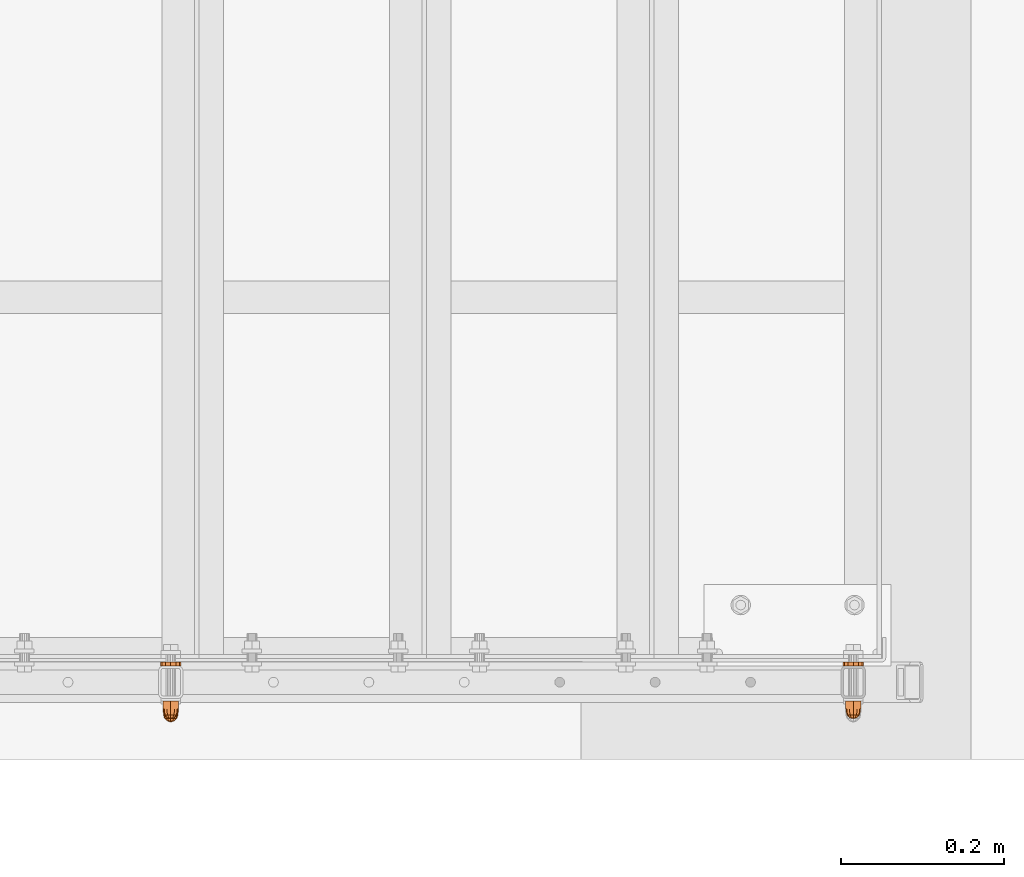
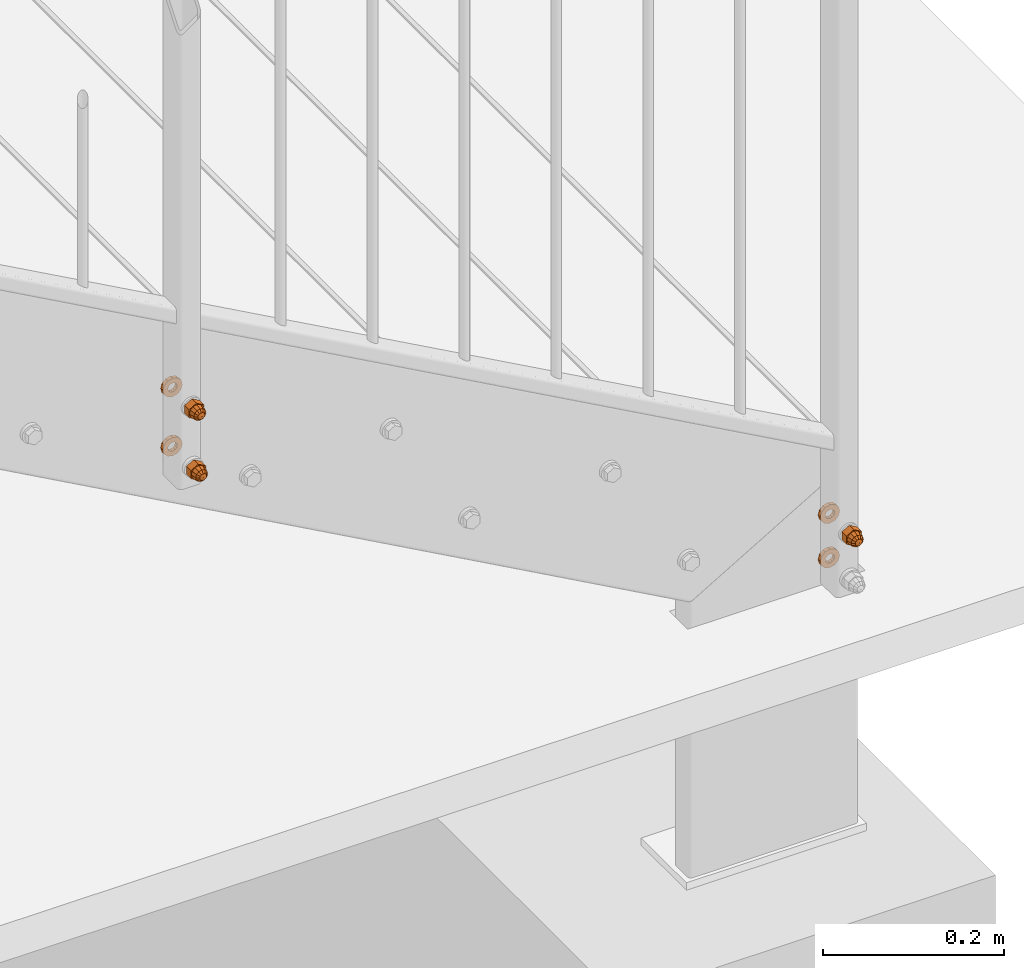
# One storey, part 114 of 116: 7 proxies.
"""IFC2X3 building model written with IfcOpenShell, lengths in millimetres."""

from ifc_helpers import new_model, entity, si_unit, converted_unit, origin_with_axes, place, context, project, spatial, faceted_brep, material, element, save


model = new_model("IFC2X3")

# Units and contexts
model_context = context("Model", 3, precision=1e-09, world=origin_with_axes())
ifc_project = project(units=[si_unit("LENGTHUNIT", "METRE", prefix="MILLI"), si_unit("AREAUNIT", "SQUARE_METRE"), si_unit("VOLUMEUNIT", "CUBIC_METRE"), converted_unit("PLANEANGLEUNIT", "DEGREE", entity("IfcPlaneAngleMeasure", 0.01745329), si_unit("PLANEANGLEUNIT", "RADIAN"), dimensions=[0, 0, 0, 0, 0, 0, 0])], contexts=[model_context])

# Site, building, storey
site_placement = place(None, origin_with_axes())
site = spatial("IfcSite", under=ifc_project, at=site_placement, Name="Site", CompositionType="ELEMENT")
building_placement = place(site_placement, origin_with_axes())
building = spatial("IfcBuilding", under=site, at=building_placement, Name="Struktur 1", CompositionType="ELEMENT")
storey_placement = place(building_placement, origin_with_axes())
storey = spatial("IfcBuildingStorey", under=building, at=storey_placement, Name="Default Storey", CompositionType="ELEMENT", Elevation=0.0)

# Proxies
ifc_material = material(Name="Kein")
proxy_1_placement = place(None, origin_with_axes())
element("IfcBuildingElementProxy", 1, at=proxy_1_placement, inside=storey, material=ifc_material, ObjectType="-", context=model_context, shape_type="Brep", body=[
    faceted_brep([(60566.223817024, 9067.359883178, -1314.25), (60570.799134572, 9067.359883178, -1318.825317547), (60577.049134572, 9067.359883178, -1320.5), (60583.299134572, 9067.359883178, -1318.825317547), (60587.874452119, 9067.359883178, -1314.25), (60589.549134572, 9067.359883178, -1308.0), (60587.874452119, 9067.359883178, -1301.75), (60583.299134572, 9067.359883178, -1297.174682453), (60577.049134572, 9067.359883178, -1295.5), (60570.799134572, 9067.359883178, -1297.174682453), (60566.223817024, 9067.359883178, -1301.75), (60564.549134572, 9067.359883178, -1308.0), (60577.049134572, 9067.359883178, -1314.0), (60574.049134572, 9067.359883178, -1313.196152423), (60571.852982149, 9067.359883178, -1311.0), (60571.049134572, 9067.359883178, -1308.0), (60571.852982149, 9067.359883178, -1305.0), (60574.049134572, 9067.359883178, -1302.803847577), (60577.049134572, 9067.359883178, -1302.0), (60580.049134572, 9067.359883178, -1302.803847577), (60582.245286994, 9067.359883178, -1305.0), (60583.049134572, 9067.359883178, -1308.0), (60582.245286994, 9067.359883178, -1311.0), (60580.049134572, 9067.359883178, -1313.196152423), (60566.223817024, 9072.359883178, -1314.25), (60570.799134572, 9072.359883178, -1318.825317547), (60564.549134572, 9072.359883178, -1308.0), (60566.223817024, 9072.359883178, -1301.75), (60570.799134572, 9072.359883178, -1297.174682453), (60577.049134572, 9072.359883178, -1295.5), (60583.299134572, 9072.359883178, -1297.174682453), (60587.874452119, 9072.359883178, -1301.75), (60589.549134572, 9072.359883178, -1308.0), (60587.874452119, 9072.359883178, -1314.25), (60583.299134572, 9072.359883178, -1318.825317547), (60577.049134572, 9072.359883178, -1320.5), (60571.852982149, 9072.359883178, -1305.0), (60571.049134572, 9072.359883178, -1308.0), (60571.852982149, 9072.359883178, -1311.0), (60574.049134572, 9072.359883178, -1313.196152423), (60577.049134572, 9072.359883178, -1314.0), (60580.049134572, 9072.359883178, -1313.196152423), (60582.245286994, 9072.359883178, -1311.0), (60583.049134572, 9072.359883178, -1308.0), (60582.245286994, 9072.359883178, -1305.0), (60580.049134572, 9072.359883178, -1302.803847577), (60577.049134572, 9072.359883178, -1302.0), (60574.049134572, 9072.359883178, -1302.803847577)], [[[0, 1, 2, 3, 4, 5, 6, 7, 8, 9, 10, 11], [12, 13, 14, 15, 16, 17, 18, 19, 20, 21, 22, 23]], [[0, 24, 25, 1]], [[24, 26, 27, 28, 29, 30, 31, 32, 33, 34, 35, 25], [36, 37, 38, 39, 40, 41, 42, 43, 44, 45, 46, 47]], [[38, 14, 13, 39]], [[24, 0, 11, 26]], [[14, 38, 37, 15]], [[39, 13, 12, 40]], [[1, 25, 35, 2]], [[26, 11, 10, 27]], [[15, 37, 36, 16]], [[40, 12, 23, 41]], [[2, 35, 34, 3]], [[27, 10, 9, 28]], [[16, 36, 47, 17]], [[22, 42, 41, 23]], [[3, 34, 33, 4]], [[42, 22, 21, 43]], [[28, 9, 8, 29]], [[17, 47, 46, 18]], [[20, 44, 43, 21]], [[4, 33, 32, 5]], [[45, 19, 18, 46]], [[44, 20, 19, 45]], [[29, 8, 7, 30]], [[5, 32, 31, 6]], [[30, 7, 6, 31]]]),
])
proxy_2_placement = place(None, origin_with_axes())
element("IfcBuildingElementProxy", 2, at=proxy_2_placement, inside=storey, material=ifc_material, ObjectType="-", context=model_context, shape_type="Brep", body=[
    faceted_brep([(60571.049134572, 9024.359883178, -1308.0), (60571.049134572, 9014.359883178, -1308.0), (60571.852982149, 9014.359883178, -1311.0), (60571.852982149, 9024.359883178, -1311.0), (60574.049134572, 9014.359883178, -1313.196152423), (60574.049134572, 9024.359883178, -1313.196152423), (60571.852982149, 9024.359883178, -1305.0), (60571.852982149, 9014.359883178, -1305.0), (60567.569265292, 9024.359883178, -1302.526794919), (60577.049134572, 9024.359883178, -1297.053589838), (60586.529003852, 9024.359883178, -1302.526794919), (60586.529003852, 9024.359883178, -1313.473205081), (60577.049134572, 9024.359883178, -1318.946410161), (60567.569265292, 9024.359883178, -1313.473205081), (60574.049134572, 9024.359883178, -1302.803847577), (60577.049134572, 9024.359883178, -1314.0), (60580.049134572, 9024.359883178, -1313.196152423), (60582.245286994, 9024.359883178, -1311.0), (60583.049134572, 9024.359883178, -1308.0), (60582.245286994, 9024.359883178, -1305.0), (60580.049134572, 9024.359883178, -1302.803847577), (60577.049134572, 9024.359883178, -1302.0), (60577.049134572, 9014.359883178, -1297.053589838), (60567.569265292, 9014.359883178, -1302.526794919), (60567.569265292, 9014.359883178, -1313.473205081), (60577.049134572, 9014.359883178, -1318.946410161), (60586.529003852, 9014.359883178, -1313.473205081), (60586.529003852, 9014.359883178, -1302.526794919), (60574.049134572, 9014.359883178, -1302.803847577), (60577.049134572, 9014.359883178, -1302.0), (60580.049134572, 9014.359883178, -1302.803847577), (60582.245286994, 9014.359883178, -1305.0), (60583.049134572, 9014.359883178, -1308.0), (60582.245286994, 9014.359883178, -1311.0), (60580.049134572, 9014.359883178, -1313.196152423), (60577.049134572, 9014.359883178, -1314.0)], [[[0, 1, 2, 3]], [[3, 2, 4, 5]], [[1, 0, 6, 7]], [[8, 9, 10, 11, 12, 13], [14, 6, 0, 3, 5, 15, 16, 17, 18, 19, 20, 21]], [[22, 23, 24, 25, 26, 27], [1, 7, 28, 29, 30, 31, 32, 33, 34, 35, 4, 2]], [[7, 6, 14, 28]], [[24, 23, 8, 13]], [[5, 4, 35, 15]], [[13, 12, 25, 24]], [[28, 14, 21, 29]], [[23, 22, 9, 8]], [[15, 35, 34, 16]], [[12, 11, 26, 25]], [[29, 21, 20, 30]], [[22, 27, 10, 9]], [[16, 34, 33, 17]], [[27, 26, 11, 10]], [[30, 20, 19, 31]], [[17, 33, 32, 18]], [[31, 19, 18, 32]]]),
    faceted_brep([(60577.049134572, 9014.359883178, -1299.0), (60577.049134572, 9011.359883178, -1299.0), (60581.549134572, 9011.359883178, -1300.205771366), (60581.549134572, 9014.359883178, -1300.205771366), (60572.549134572, 9014.359883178, -1300.205771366), (60572.549134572, 9011.359883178, -1300.205771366), (60569.254905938, 9011.359883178, -1312.5), (60572.549134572, 9011.359883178, -1315.794228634), (60577.049134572, 9011.359883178, -1317.0), (60581.549134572, 9011.359883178, -1315.794228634), (60584.843363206, 9011.359883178, -1312.5), (60586.049134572, 9011.359883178, -1308.0), (60584.843363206, 9011.359883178, -1303.5), (60569.254905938, 9011.359883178, -1303.5), (60568.049134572, 9011.359883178, -1308.0), (60584.843363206, 9014.359883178, -1312.5), (60581.549134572, 9014.359883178, -1315.794228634), (60577.049134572, 9014.359883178, -1317.0), (60572.549134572, 9014.359883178, -1315.794228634), (60569.254905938, 9014.359883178, -1312.5), (60568.049134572, 9014.359883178, -1308.0), (60569.254905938, 9014.359883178, -1303.5), (60584.843363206, 9014.359883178, -1303.5), (60586.049134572, 9014.359883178, -1308.0)], [[[0, 1, 2, 3]], [[1, 0, 4, 5]], [[6, 7, 8, 9, 10, 11, 12, 2, 1, 5, 13, 14]], [[15, 16, 17, 18, 19, 20, 21, 4, 0, 3, 22, 23]], [[3, 2, 12, 22]], [[5, 4, 21, 13]], [[22, 12, 11, 23]], [[13, 21, 20, 14]], [[7, 18, 17, 8]], [[19, 6, 14, 20]], [[18, 7, 6, 19]], [[23, 11, 10, 15]], [[8, 17, 16, 9]], [[15, 10, 9, 16]]]),
    faceted_brep([(60569.254905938, 9011.359883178, -1303.5), (60570.299134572, 9006.859883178, -1304.102885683), (60573.152020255, 9006.859883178, -1301.25), (60572.549134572, 9011.359883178, -1300.205771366), (60584.843363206, 9011.359883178, -1312.5), (60581.549134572, 9011.359883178, -1315.794228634), (60577.049134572, 9011.359883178, -1317.0), (60572.549134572, 9011.359883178, -1315.794228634), (60569.254905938, 9011.359883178, -1312.5), (60568.049134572, 9011.359883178, -1308.0), (60577.049134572, 9011.359883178, -1299.0), (60581.549134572, 9011.359883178, -1300.205771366), (60584.843363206, 9011.359883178, -1303.5), (60586.049134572, 9011.359883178, -1308.0), (60577.049134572, 9006.859883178, -1300.205771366), (60569.254905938, 9006.859883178, -1308.0), (60572.549134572, 9003.565654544, -1308.0), (60573.152020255, 9003.565654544, -1305.75), (60580.946248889, 9006.859883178, -1301.25), (60574.799134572, 9003.565654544, -1304.102885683), (60570.299134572, 9006.859883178, -1311.897114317), (60573.152020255, 9003.565654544, -1310.25), (60577.049134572, 9003.565654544, -1303.5), (60577.049134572, 9002.359883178, -1308.0), (60573.152020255, 9006.859883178, -1314.75), (60574.799134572, 9003.565654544, -1311.897114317), (60577.049134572, 9006.859883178, -1315.794228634), (60583.799134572, 9006.859883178, -1304.102885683), (60579.299134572, 9003.565654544, -1304.102885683), (60577.049134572, 9003.565654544, -1312.5), (60580.946248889, 9006.859883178, -1314.75), (60579.299134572, 9003.565654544, -1311.897114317), (60584.843363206, 9006.859883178, -1308.0), (60580.946248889, 9003.565654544, -1305.75), (60583.799134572, 9006.859883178, -1311.897114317), (60580.946248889, 9003.565654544, -1310.25), (60581.549134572, 9003.565654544, -1308.0)], [[[0, 1, 2, 3]], [[4, 5, 6, 7, 8, 9, 0, 3, 10, 11, 12, 13]], [[3, 2, 14, 10]], [[15, 16, 17, 1]], [[1, 0, 9, 15]], [[10, 14, 18, 11]], [[1, 17, 19, 2]], [[16, 15, 20, 21]], [[2, 19, 22, 14]], [[23, 17, 16]], [[24, 25, 21, 20]], [[23, 16, 21]], [[24, 7, 6, 26]], [[20, 8, 7, 24]], [[15, 9, 8, 20]], [[11, 18, 27, 12]], [[14, 22, 28, 18]], [[23, 19, 17]], [[26, 29, 25, 24]], [[23, 21, 25]], [[23, 22, 19]], [[26, 6, 5, 30]], [[29, 26, 30, 31]], [[23, 25, 29]], [[12, 27, 32, 13]], [[18, 28, 33, 27]], [[23, 28, 22]], [[23, 29, 31]], [[23, 33, 28]], [[30, 5, 4, 34]], [[31, 30, 34, 35]], [[23, 31, 35]], [[13, 32, 34, 4]], [[27, 33, 36, 32]], [[23, 36, 33]], [[23, 35, 36]], [[35, 34, 32, 36]]]),
])
proxy_3_placement = place(None, origin_with_axes())
element("IfcBuildingElementProxy", 3, at=proxy_3_placement, inside=storey, material=ifc_material, ObjectType="-", context=model_context, shape_type="Brep", body=[
    faceted_brep([(60566.223817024, 9067.359883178, -1374.25), (60570.799134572, 9067.359883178, -1378.825317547), (60577.049134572, 9067.359883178, -1380.5), (60583.299134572, 9067.359883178, -1378.825317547), (60587.874452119, 9067.359883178, -1374.25), (60589.549134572, 9067.359883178, -1368.0), (60587.874452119, 9067.359883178, -1361.75), (60583.299134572, 9067.359883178, -1357.174682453), (60577.049134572, 9067.359883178, -1355.5), (60570.799134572, 9067.359883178, -1357.174682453), (60566.223817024, 9067.359883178, -1361.75), (60564.549134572, 9067.359883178, -1368.0), (60577.049134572, 9067.359883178, -1374.0), (60574.049134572, 9067.359883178, -1373.196152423), (60571.852982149, 9067.359883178, -1371.0), (60571.049134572, 9067.359883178, -1368.0), (60571.852982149, 9067.359883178, -1365.0), (60574.049134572, 9067.359883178, -1362.803847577), (60577.049134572, 9067.359883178, -1362.0), (60580.049134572, 9067.359883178, -1362.803847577), (60582.245286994, 9067.359883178, -1365.0), (60583.049134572, 9067.359883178, -1368.0), (60582.245286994, 9067.359883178, -1371.0), (60580.049134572, 9067.359883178, -1373.196152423), (60566.223817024, 9072.359883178, -1374.25), (60570.799134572, 9072.359883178, -1378.825317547), (60564.549134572, 9072.359883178, -1368.0), (60566.223817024, 9072.359883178, -1361.75), (60570.799134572, 9072.359883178, -1357.174682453), (60577.049134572, 9072.359883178, -1355.5), (60583.299134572, 9072.359883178, -1357.174682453), (60587.874452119, 9072.359883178, -1361.75), (60589.549134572, 9072.359883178, -1368.0), (60587.874452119, 9072.359883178, -1374.25), (60583.299134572, 9072.359883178, -1378.825317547), (60577.049134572, 9072.359883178, -1380.5), (60571.852982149, 9072.359883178, -1365.0), (60571.049134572, 9072.359883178, -1368.0), (60571.852982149, 9072.359883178, -1371.0), (60574.049134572, 9072.359883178, -1373.196152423), (60577.049134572, 9072.359883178, -1374.0), (60580.049134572, 9072.359883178, -1373.196152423), (60582.245286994, 9072.359883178, -1371.0), (60583.049134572, 9072.359883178, -1368.0), (60582.245286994, 9072.359883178, -1365.0), (60580.049134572, 9072.359883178, -1362.803847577), (60577.049134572, 9072.359883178, -1362.0), (60574.049134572, 9072.359883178, -1362.803847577)], [[[0, 1, 2, 3, 4, 5, 6, 7, 8, 9, 10, 11], [12, 13, 14, 15, 16, 17, 18, 19, 20, 21, 22, 23]], [[0, 24, 25, 1]], [[24, 26, 27, 28, 29, 30, 31, 32, 33, 34, 35, 25], [36, 37, 38, 39, 40, 41, 42, 43, 44, 45, 46, 47]], [[38, 14, 13, 39]], [[24, 0, 11, 26]], [[14, 38, 37, 15]], [[39, 13, 12, 40]], [[1, 25, 35, 2]], [[26, 11, 10, 27]], [[15, 37, 36, 16]], [[40, 12, 23, 41]], [[2, 35, 34, 3]], [[27, 10, 9, 28]], [[16, 36, 47, 17]], [[22, 42, 41, 23]], [[3, 34, 33, 4]], [[42, 22, 21, 43]], [[28, 9, 8, 29]], [[17, 47, 46, 18]], [[20, 44, 43, 21]], [[4, 33, 32, 5]], [[45, 19, 18, 46]], [[44, 20, 19, 45]], [[29, 8, 7, 30]], [[5, 32, 31, 6]], [[30, 7, 6, 31]]]),
])
proxy_4_placement = place(None, origin_with_axes())
element("IfcBuildingElementProxy", 4, at=proxy_4_placement, inside=storey, material=ifc_material, ObjectType="-", context=model_context, shape_type="Brep", body=[
    faceted_brep([(59731.049134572, 9020.359883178, -923.0), (59731.049134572, 9010.359883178, -923.0), (59731.852982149, 9010.359883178, -926.0), (59731.852982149, 9020.359883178, -926.0), (59734.049134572, 9010.359883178, -928.196152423), (59734.049134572, 9020.359883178, -928.196152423), (59731.852982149, 9020.359883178, -920.0), (59731.852982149, 9010.359883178, -920.0), (59727.569265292, 9020.359883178, -917.526794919), (59737.049134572, 9020.359883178, -912.053589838), (59746.529003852, 9020.359883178, -917.526794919), (59746.529003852, 9020.359883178, -928.473205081), (59737.049134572, 9020.359883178, -933.946410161), (59727.569265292, 9020.359883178, -928.473205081), (59734.049134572, 9020.359883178, -917.803847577), (59737.049134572, 9020.359883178, -929.0), (59740.049134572, 9020.359883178, -928.196152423), (59742.245286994, 9020.359883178, -926.0), (59743.049134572, 9020.359883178, -923.0), (59742.245286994, 9020.359883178, -920.0), (59740.049134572, 9020.359883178, -917.803847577), (59737.049134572, 9020.359883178, -917.0), (59737.049134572, 9010.359883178, -912.053589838), (59727.569265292, 9010.359883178, -917.526794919), (59727.569265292, 9010.359883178, -928.473205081), (59737.049134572, 9010.359883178, -933.946410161), (59746.529003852, 9010.359883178, -928.473205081), (59746.529003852, 9010.359883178, -917.526794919), (59734.049134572, 9010.359883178, -917.803847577), (59737.049134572, 9010.359883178, -917.0), (59740.049134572, 9010.359883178, -917.803847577), (59742.245286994, 9010.359883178, -920.0), (59743.049134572, 9010.359883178, -923.0), (59742.245286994, 9010.359883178, -926.0), (59740.049134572, 9010.359883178, -928.196152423), (59737.049134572, 9010.359883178, -929.0)], [[[0, 1, 2, 3]], [[3, 2, 4, 5]], [[1, 0, 6, 7]], [[8, 9, 10, 11, 12, 13], [14, 6, 0, 3, 5, 15, 16, 17, 18, 19, 20, 21]], [[22, 23, 24, 25, 26, 27], [1, 7, 28, 29, 30, 31, 32, 33, 34, 35, 4, 2]], [[7, 6, 14, 28]], [[24, 23, 8, 13]], [[5, 4, 35, 15]], [[13, 12, 25, 24]], [[28, 14, 21, 29]], [[23, 22, 9, 8]], [[15, 35, 34, 16]], [[12, 11, 26, 25]], [[29, 21, 20, 30]], [[22, 27, 10, 9]], [[16, 34, 33, 17]], [[27, 26, 11, 10]], [[30, 20, 19, 31]], [[17, 33, 32, 18]], [[31, 19, 18, 32]]]),
    faceted_brep([(59737.049134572, 9010.359883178, -914.0), (59737.049134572, 9007.359883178, -914.0), (59741.549134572, 9007.359883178, -915.205771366), (59741.549134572, 9010.359883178, -915.205771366), (59732.549134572, 9010.359883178, -915.205771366), (59732.549134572, 9007.359883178, -915.205771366), (59729.254905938, 9007.359883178, -927.5), (59732.549134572, 9007.359883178, -930.794228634), (59737.049134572, 9007.359883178, -932.0), (59741.549134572, 9007.359883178, -930.794228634), (59744.843363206, 9007.359883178, -927.5), (59746.049134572, 9007.359883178, -923.0), (59744.843363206, 9007.359883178, -918.5), (59729.254905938, 9007.359883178, -918.5), (59728.049134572, 9007.359883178, -923.0), (59744.843363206, 9010.359883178, -927.5), (59741.549134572, 9010.359883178, -930.794228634), (59737.049134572, 9010.359883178, -932.0), (59732.549134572, 9010.359883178, -930.794228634), (59729.254905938, 9010.359883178, -927.5), (59728.049134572, 9010.359883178, -923.0), (59729.254905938, 9010.359883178, -918.5), (59744.843363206, 9010.359883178, -918.5), (59746.049134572, 9010.359883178, -923.0)], [[[0, 1, 2, 3]], [[1, 0, 4, 5]], [[6, 7, 8, 9, 10, 11, 12, 2, 1, 5, 13, 14]], [[15, 16, 17, 18, 19, 20, 21, 4, 0, 3, 22, 23]], [[3, 2, 12, 22]], [[5, 4, 21, 13]], [[22, 12, 11, 23]], [[13, 21, 20, 14]], [[7, 18, 17, 8]], [[19, 6, 14, 20]], [[18, 7, 6, 19]], [[23, 11, 10, 15]], [[8, 17, 16, 9]], [[15, 10, 9, 16]]]),
    faceted_brep([(59729.254905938, 9007.359883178, -918.5), (59730.299134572, 9002.859883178, -919.102885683), (59733.152020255, 9002.859883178, -916.25), (59732.549134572, 9007.359883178, -915.205771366), (59744.843363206, 9007.359883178, -927.5), (59741.549134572, 9007.359883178, -930.794228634), (59737.049134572, 9007.359883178, -932.0), (59732.549134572, 9007.359883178, -930.794228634), (59729.254905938, 9007.359883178, -927.5), (59728.049134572, 9007.359883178, -923.0), (59737.049134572, 9007.359883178, -914.0), (59741.549134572, 9007.359883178, -915.205771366), (59744.843363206, 9007.359883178, -918.5), (59746.049134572, 9007.359883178, -923.0), (59737.049134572, 9002.859883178, -915.205771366), (59729.254905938, 9002.859883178, -923.0), (59732.549134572, 8999.565654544, -923.0), (59733.152020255, 8999.565654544, -920.75), (59740.946248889, 9002.859883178, -916.25), (59734.799134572, 8999.565654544, -919.102885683), (59730.299134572, 9002.859883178, -926.897114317), (59733.152020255, 8999.565654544, -925.25), (59737.049134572, 8999.565654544, -918.5), (59737.049134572, 8998.359883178, -923.0), (59733.152020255, 9002.859883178, -929.75), (59734.799134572, 8999.565654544, -926.897114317), (59737.049134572, 9002.859883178, -930.794228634), (59743.799134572, 9002.859883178, -919.102885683), (59739.299134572, 8999.565654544, -919.102885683), (59737.049134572, 8999.565654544, -927.5), (59740.946248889, 9002.859883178, -929.75), (59739.299134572, 8999.565654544, -926.897114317), (59744.843363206, 9002.859883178, -923.0), (59740.946248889, 8999.565654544, -920.75), (59743.799134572, 9002.859883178, -926.897114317), (59740.946248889, 8999.565654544, -925.25), (59741.549134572, 8999.565654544, -923.0)], [[[0, 1, 2, 3]], [[4, 5, 6, 7, 8, 9, 0, 3, 10, 11, 12, 13]], [[3, 2, 14, 10]], [[15, 16, 17, 1]], [[1, 0, 9, 15]], [[10, 14, 18, 11]], [[1, 17, 19, 2]], [[16, 15, 20, 21]], [[2, 19, 22, 14]], [[23, 17, 16]], [[24, 25, 21, 20]], [[23, 16, 21]], [[24, 7, 6, 26]], [[20, 8, 7, 24]], [[15, 9, 8, 20]], [[11, 18, 27, 12]], [[14, 22, 28, 18]], [[23, 19, 17]], [[26, 29, 25, 24]], [[23, 21, 25]], [[23, 22, 19]], [[26, 6, 5, 30]], [[29, 26, 30, 31]], [[23, 25, 29]], [[12, 27, 32, 13]], [[18, 28, 33, 27]], [[23, 28, 22]], [[23, 29, 31]], [[23, 33, 28]], [[30, 5, 4, 34]], [[31, 30, 34, 35]], [[23, 31, 35]], [[13, 32, 34, 4]], [[27, 33, 36, 32]], [[23, 36, 33]], [[23, 35, 36]], [[35, 34, 32, 36]]]),
])
proxy_5_placement = place(None, origin_with_axes())
element("IfcBuildingElementProxy", 5, at=proxy_5_placement, inside=storey, material=ifc_material, ObjectType="-", context=model_context, shape_type="Brep", body=[
    faceted_brep([(59731.049134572, 9024.359883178, -843.0), (59731.049134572, 9014.359883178, -843.0), (59731.852982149, 9014.359883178, -846.0), (59731.852982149, 9024.359883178, -846.0), (59734.049134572, 9014.359883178, -848.196152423), (59734.049134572, 9024.359883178, -848.196152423), (59731.852982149, 9024.359883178, -840.0), (59731.852982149, 9014.359883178, -840.0), (59727.569265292, 9024.359883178, -837.526794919), (59737.049134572, 9024.359883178, -832.053589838), (59746.529003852, 9024.359883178, -837.526794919), (59746.529003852, 9024.359883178, -848.473205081), (59737.049134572, 9024.359883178, -853.946410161), (59727.569265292, 9024.359883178, -848.473205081), (59734.049134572, 9024.359883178, -837.803847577), (59737.049134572, 9024.359883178, -849.0), (59740.049134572, 9024.359883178, -848.196152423), (59742.245286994, 9024.359883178, -846.0), (59743.049134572, 9024.359883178, -843.0), (59742.245286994, 9024.359883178, -840.0), (59740.049134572, 9024.359883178, -837.803847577), (59737.049134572, 9024.359883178, -837.0), (59737.049134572, 9014.359883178, -832.053589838), (59727.569265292, 9014.359883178, -837.526794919), (59727.569265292, 9014.359883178, -848.473205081), (59737.049134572, 9014.359883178, -853.946410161), (59746.529003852, 9014.359883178, -848.473205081), (59746.529003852, 9014.359883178, -837.526794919), (59734.049134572, 9014.359883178, -837.803847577), (59737.049134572, 9014.359883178, -837.0), (59740.049134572, 9014.359883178, -837.803847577), (59742.245286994, 9014.359883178, -840.0), (59743.049134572, 9014.359883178, -843.0), (59742.245286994, 9014.359883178, -846.0), (59740.049134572, 9014.359883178, -848.196152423), (59737.049134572, 9014.359883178, -849.0)], [[[0, 1, 2, 3]], [[3, 2, 4, 5]], [[1, 0, 6, 7]], [[8, 9, 10, 11, 12, 13], [14, 6, 0, 3, 5, 15, 16, 17, 18, 19, 20, 21]], [[22, 23, 24, 25, 26, 27], [1, 7, 28, 29, 30, 31, 32, 33, 34, 35, 4, 2]], [[7, 6, 14, 28]], [[24, 23, 8, 13]], [[5, 4, 35, 15]], [[13, 12, 25, 24]], [[28, 14, 21, 29]], [[23, 22, 9, 8]], [[15, 35, 34, 16]], [[12, 11, 26, 25]], [[29, 21, 20, 30]], [[22, 27, 10, 9]], [[16, 34, 33, 17]], [[27, 26, 11, 10]], [[30, 20, 19, 31]], [[17, 33, 32, 18]], [[31, 19, 18, 32]]]),
    faceted_brep([(59737.049134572, 9014.359883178, -834.0), (59737.049134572, 9011.359883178, -834.0), (59741.549134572, 9011.359883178, -835.205771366), (59741.549134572, 9014.359883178, -835.205771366), (59732.549134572, 9014.359883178, -835.205771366), (59732.549134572, 9011.359883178, -835.205771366), (59729.254905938, 9011.359883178, -847.5), (59732.549134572, 9011.359883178, -850.794228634), (59737.049134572, 9011.359883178, -852.0), (59741.549134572, 9011.359883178, -850.794228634), (59744.843363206, 9011.359883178, -847.5), (59746.049134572, 9011.359883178, -843.0), (59744.843363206, 9011.359883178, -838.5), (59729.254905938, 9011.359883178, -838.5), (59728.049134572, 9011.359883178, -843.0), (59744.843363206, 9014.359883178, -847.5), (59741.549134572, 9014.359883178, -850.794228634), (59737.049134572, 9014.359883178, -852.0), (59732.549134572, 9014.359883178, -850.794228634), (59729.254905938, 9014.359883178, -847.5), (59728.049134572, 9014.359883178, -843.0), (59729.254905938, 9014.359883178, -838.5), (59744.843363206, 9014.359883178, -838.5), (59746.049134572, 9014.359883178, -843.0)], [[[0, 1, 2, 3]], [[1, 0, 4, 5]], [[6, 7, 8, 9, 10, 11, 12, 2, 1, 5, 13, 14]], [[15, 16, 17, 18, 19, 20, 21, 4, 0, 3, 22, 23]], [[3, 2, 12, 22]], [[5, 4, 21, 13]], [[22, 12, 11, 23]], [[13, 21, 20, 14]], [[7, 18, 17, 8]], [[19, 6, 14, 20]], [[18, 7, 6, 19]], [[23, 11, 10, 15]], [[8, 17, 16, 9]], [[15, 10, 9, 16]]]),
    faceted_brep([(59729.254905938, 9011.359883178, -838.5), (59730.299134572, 9006.859883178, -839.102885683), (59733.152020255, 9006.859883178, -836.25), (59732.549134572, 9011.359883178, -835.205771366), (59744.843363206, 9011.359883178, -847.5), (59741.549134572, 9011.359883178, -850.794228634), (59737.049134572, 9011.359883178, -852.0), (59732.549134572, 9011.359883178, -850.794228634), (59729.254905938, 9011.359883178, -847.5), (59728.049134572, 9011.359883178, -843.0), (59737.049134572, 9011.359883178, -834.0), (59741.549134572, 9011.359883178, -835.205771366), (59744.843363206, 9011.359883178, -838.5), (59746.049134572, 9011.359883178, -843.0), (59737.049134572, 9006.859883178, -835.205771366), (59729.254905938, 9006.859883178, -843.0), (59732.549134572, 9003.565654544, -843.0), (59733.152020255, 9003.565654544, -840.75), (59740.946248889, 9006.859883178, -836.25), (59734.799134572, 9003.565654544, -839.102885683), (59730.299134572, 9006.859883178, -846.897114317), (59733.152020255, 9003.565654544, -845.25), (59737.049134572, 9003.565654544, -838.5), (59737.049134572, 9002.359883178, -843.0), (59733.152020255, 9006.859883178, -849.75), (59734.799134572, 9003.565654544, -846.897114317), (59737.049134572, 9006.859883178, -850.794228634), (59743.799134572, 9006.859883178, -839.102885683), (59739.299134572, 9003.565654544, -839.102885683), (59737.049134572, 9003.565654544, -847.5), (59740.946248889, 9006.859883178, -849.75), (59739.299134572, 9003.565654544, -846.897114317), (59744.843363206, 9006.859883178, -843.0), (59740.946248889, 9003.565654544, -840.75), (59743.799134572, 9006.859883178, -846.897114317), (59740.946248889, 9003.565654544, -845.25), (59741.549134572, 9003.565654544, -843.0)], [[[0, 1, 2, 3]], [[4, 5, 6, 7, 8, 9, 0, 3, 10, 11, 12, 13]], [[3, 2, 14, 10]], [[15, 16, 17, 1]], [[1, 0, 9, 15]], [[10, 14, 18, 11]], [[1, 17, 19, 2]], [[16, 15, 20, 21]], [[2, 19, 22, 14]], [[23, 17, 16]], [[24, 25, 21, 20]], [[23, 16, 21]], [[24, 7, 6, 26]], [[20, 8, 7, 24]], [[15, 9, 8, 20]], [[11, 18, 27, 12]], [[14, 22, 28, 18]], [[23, 19, 17]], [[26, 29, 25, 24]], [[23, 21, 25]], [[23, 22, 19]], [[26, 6, 5, 30]], [[29, 26, 30, 31]], [[23, 25, 29]], [[12, 27, 32, 13]], [[18, 28, 33, 27]], [[23, 28, 22]], [[23, 29, 31]], [[23, 33, 28]], [[30, 5, 4, 34]], [[31, 30, 34, 35]], [[23, 31, 35]], [[13, 32, 34, 4]], [[27, 33, 36, 32]], [[23, 36, 33]], [[23, 35, 36]], [[35, 34, 32, 36]]]),
])
proxy_6_placement = place(None, origin_with_axes())
element("IfcBuildingElementProxy", 6, at=proxy_6_placement, inside=storey, material=ifc_material, ObjectType="-", context=model_context, shape_type="Brep", body=[
    faceted_brep([(59726.223817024, 9067.359883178, -929.25), (59730.799134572, 9067.359883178, -933.825317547), (59737.049134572, 9067.359883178, -935.5), (59743.299134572, 9067.359883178, -933.825317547), (59747.874452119, 9067.359883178, -929.25), (59749.549134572, 9067.359883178, -923.0), (59747.874452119, 9067.359883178, -916.75), (59743.299134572, 9067.359883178, -912.174682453), (59737.049134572, 9067.359883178, -910.5), (59730.799134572, 9067.359883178, -912.174682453), (59726.223817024, 9067.359883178, -916.75), (59724.549134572, 9067.359883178, -923.0), (59737.049134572, 9067.359883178, -929.0), (59734.049134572, 9067.359883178, -928.196152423), (59731.852982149, 9067.359883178, -926.0), (59731.049134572, 9067.359883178, -923.0), (59731.852982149, 9067.359883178, -920.0), (59734.049134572, 9067.359883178, -917.803847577), (59737.049134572, 9067.359883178, -917.0), (59740.049134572, 9067.359883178, -917.803847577), (59742.245286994, 9067.359883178, -920.0), (59743.049134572, 9067.359883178, -923.0), (59742.245286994, 9067.359883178, -926.0), (59740.049134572, 9067.359883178, -928.196152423), (59726.223817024, 9072.359883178, -929.25), (59730.799134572, 9072.359883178, -933.825317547), (59724.549134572, 9072.359883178, -923.0), (59726.223817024, 9072.359883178, -916.75), (59730.799134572, 9072.359883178, -912.174682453), (59737.049134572, 9072.359883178, -910.5), (59743.299134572, 9072.359883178, -912.174682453), (59747.874452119, 9072.359883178, -916.75), (59749.549134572, 9072.359883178, -923.0), (59747.874452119, 9072.359883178, -929.25), (59743.299134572, 9072.359883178, -933.825317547), (59737.049134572, 9072.359883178, -935.5), (59731.852982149, 9072.359883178, -920.0), (59731.049134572, 9072.359883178, -923.0), (59731.852982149, 9072.359883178, -926.0), (59734.049134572, 9072.359883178, -928.196152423), (59737.049134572, 9072.359883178, -929.0), (59740.049134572, 9072.359883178, -928.196152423), (59742.245286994, 9072.359883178, -926.0), (59743.049134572, 9072.359883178, -923.0), (59742.245286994, 9072.359883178, -920.0), (59740.049134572, 9072.359883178, -917.803847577), (59737.049134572, 9072.359883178, -917.0), (59734.049134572, 9072.359883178, -917.803847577)], [[[0, 1, 2, 3, 4, 5, 6, 7, 8, 9, 10, 11], [12, 13, 14, 15, 16, 17, 18, 19, 20, 21, 22, 23]], [[0, 24, 25, 1]], [[24, 26, 27, 28, 29, 30, 31, 32, 33, 34, 35, 25], [36, 37, 38, 39, 40, 41, 42, 43, 44, 45, 46, 47]], [[38, 14, 13, 39]], [[24, 0, 11, 26]], [[14, 38, 37, 15]], [[39, 13, 12, 40]], [[1, 25, 35, 2]], [[26, 11, 10, 27]], [[15, 37, 36, 16]], [[40, 12, 23, 41]], [[2, 35, 34, 3]], [[27, 10, 9, 28]], [[16, 36, 47, 17]], [[22, 42, 41, 23]], [[3, 34, 33, 4]], [[42, 22, 21, 43]], [[28, 9, 8, 29]], [[17, 47, 46, 18]], [[20, 44, 43, 21]], [[4, 33, 32, 5]], [[45, 19, 18, 46]], [[44, 20, 19, 45]], [[29, 8, 7, 30]], [[5, 32, 31, 6]], [[30, 7, 6, 31]]]),
])
proxy_7_placement = place(None, origin_with_axes())
element("IfcBuildingElementProxy", 7, at=proxy_7_placement, inside=storey, material=ifc_material, ObjectType="-", context=model_context, shape_type="Brep", body=[
    faceted_brep([(59726.223817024, 9067.359883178, -849.25), (59730.799134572, 9067.359883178, -853.825317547), (59737.049134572, 9067.359883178, -855.5), (59743.299134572, 9067.359883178, -853.825317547), (59747.874452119, 9067.359883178, -849.25), (59749.549134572, 9067.359883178, -843.0), (59747.874452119, 9067.359883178, -836.75), (59743.299134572, 9067.359883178, -832.174682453), (59737.049134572, 9067.359883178, -830.5), (59730.799134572, 9067.359883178, -832.174682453), (59726.223817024, 9067.359883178, -836.75), (59724.549134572, 9067.359883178, -843.0), (59737.049134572, 9067.359883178, -849.0), (59734.049134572, 9067.359883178, -848.196152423), (59731.852982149, 9067.359883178, -846.0), (59731.049134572, 9067.359883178, -843.0), (59731.852982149, 9067.359883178, -840.0), (59734.049134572, 9067.359883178, -837.803847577), (59737.049134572, 9067.359883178, -837.0), (59740.049134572, 9067.359883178, -837.803847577), (59742.245286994, 9067.359883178, -840.0), (59743.049134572, 9067.359883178, -843.0), (59742.245286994, 9067.359883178, -846.0), (59740.049134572, 9067.359883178, -848.196152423), (59726.223817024, 9072.359883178, -849.25), (59730.799134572, 9072.359883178, -853.825317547), (59724.549134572, 9072.359883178, -843.0), (59726.223817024, 9072.359883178, -836.75), (59730.799134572, 9072.359883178, -832.174682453), (59737.049134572, 9072.359883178, -830.5), (59743.299134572, 9072.359883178, -832.174682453), (59747.874452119, 9072.359883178, -836.75), (59749.549134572, 9072.359883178, -843.0), (59747.874452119, 9072.359883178, -849.25), (59743.299134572, 9072.359883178, -853.825317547), (59737.049134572, 9072.359883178, -855.5), (59731.852982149, 9072.359883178, -840.0), (59731.049134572, 9072.359883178, -843.0), (59731.852982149, 9072.359883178, -846.0), (59734.049134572, 9072.359883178, -848.196152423), (59737.049134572, 9072.359883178, -849.0), (59740.049134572, 9072.359883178, -848.196152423), (59742.245286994, 9072.359883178, -846.0), (59743.049134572, 9072.359883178, -843.0), (59742.245286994, 9072.359883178, -840.0), (59740.049134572, 9072.359883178, -837.803847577), (59737.049134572, 9072.359883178, -837.0), (59734.049134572, 9072.359883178, -837.803847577)], [[[0, 1, 2, 3, 4, 5, 6, 7, 8, 9, 10, 11], [12, 13, 14, 15, 16, 17, 18, 19, 20, 21, 22, 23]], [[0, 24, 25, 1]], [[24, 26, 27, 28, 29, 30, 31, 32, 33, 34, 35, 25], [36, 37, 38, 39, 40, 41, 42, 43, 44, 45, 46, 47]], [[38, 14, 13, 39]], [[24, 0, 11, 26]], [[14, 38, 37, 15]], [[39, 13, 12, 40]], [[1, 25, 35, 2]], [[26, 11, 10, 27]], [[15, 37, 36, 16]], [[40, 12, 23, 41]], [[2, 35, 34, 3]], [[27, 10, 9, 28]], [[16, 36, 47, 17]], [[22, 42, 41, 23]], [[3, 34, 33, 4]], [[42, 22, 21, 43]], [[28, 9, 8, 29]], [[17, 47, 46, 18]], [[20, 44, 43, 21]], [[4, 33, 32, 5]], [[45, 19, 18, 46]], [[44, 20, 19, 45]], [[29, 8, 7, 30]], [[5, 32, 31, 6]], [[30, 7, 6, 31]]]),
])

save(model, "model.ifc")
